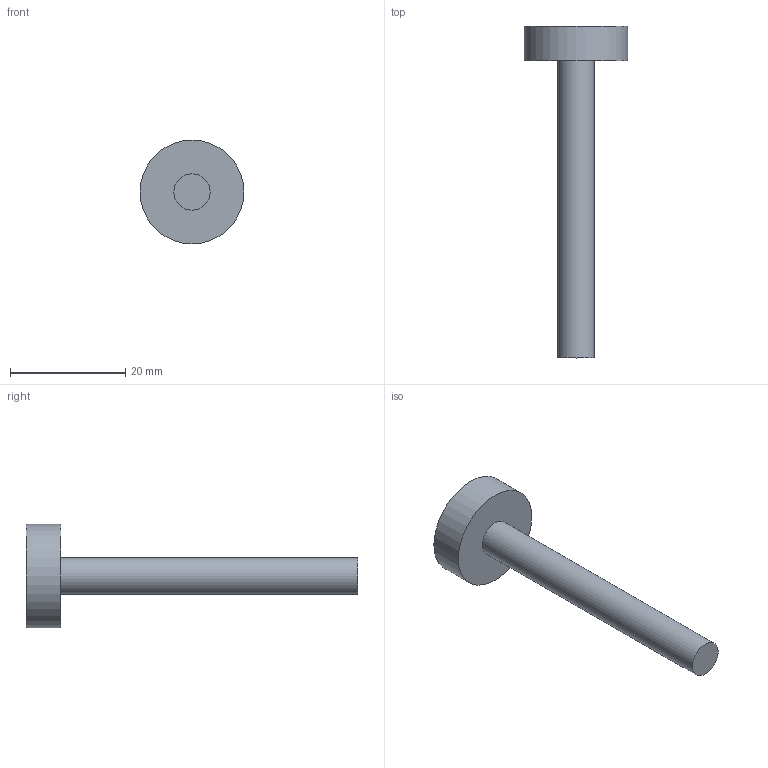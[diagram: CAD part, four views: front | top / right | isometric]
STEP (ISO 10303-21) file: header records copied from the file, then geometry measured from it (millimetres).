
FILE_DESCRIPTION(('Open CASCADE Model'),'2;1');
FILE_NAME('Open CASCADE Shape Model','2026-10-17T22:15:36',('Author'),( 'Open CASCADE'),'Open CASCADE STEP processor 7.9','Open CASCADE 7.9' ,'Unknown');
FILE_SCHEMA(('AUTOMOTIVE_DESIGN { 1 0 10303 214 1 1 1 1 }'));
Length unit declared in the file: millimetre
Products named in the file (1): Open CASCADE STEP translator 7.9 10
Bounding box: 18 x 57.5 x 18 mm (x, y, z)
Volume: 3132.2 mm3; surface area: 1867.5 mm2
Topology: 1 solids, 1 shells, 5 faces, 6 edges, 4 vertices
Faces by surface type: plane 3, cylinder 2
Full cylindrical faces by diameter (mm): 6.3 x1, 18 x1
Entity records: 192 total; most frequent: DIRECTION 34, CARTESIAN_POINT 28, ORIENTED_EDGE 12, PCURVE 12, DEFINITIONAL_REPRESENTATION 12, AXIS2_PLACEMENT_3D 10, LINE 10, VECTOR 10
